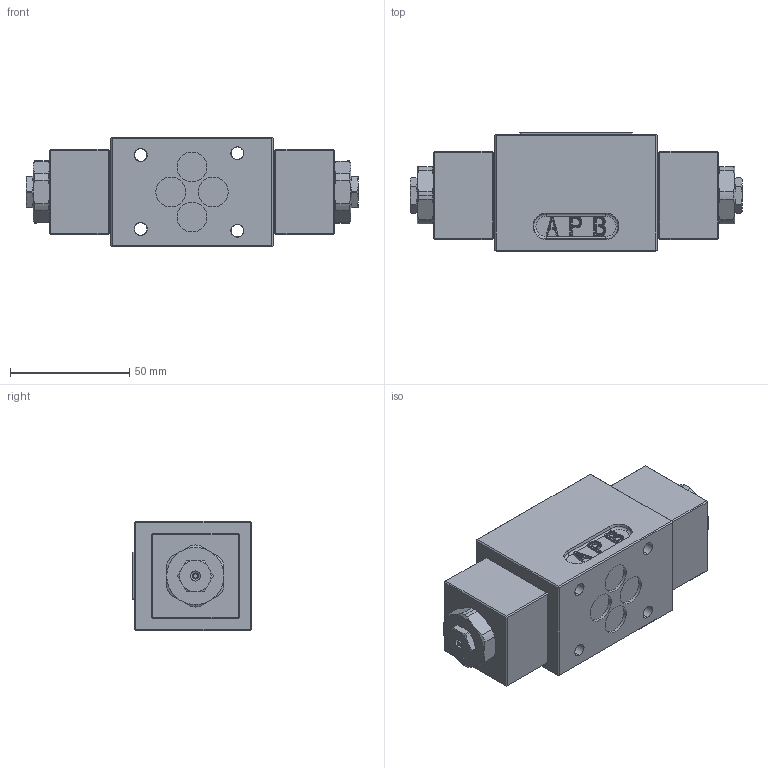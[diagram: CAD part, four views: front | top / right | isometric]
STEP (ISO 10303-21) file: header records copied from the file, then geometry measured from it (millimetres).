
FILE_DESCRIPTION (( 'STEP AP214' ), '1' );
FILE_NAME ('WFAFA06-...STEP', '2022-07-05T09:57:16', ( '' ), ( '' ), 'SwSTEP 2.0', 'SolidWorks 2020', '' );
FILE_SCHEMA (( 'AUTOMOTIVE_DESIGN' ));
Length unit declared in the file: millimetre
Products named in the file (1): WFAFA06-..
Bounding box: 139.2 x 49.8 x 46 mm (x, y, z)
Volume: 219852.1 mm3; surface area: 34677.4 mm2
Topology: 1 solids, 3 shells, 528 faces, 1247 edges, 753 vertices
Faces by surface type: plane 200, cylinder 176, cone 74, bspline 36, torus 24, sphere 18
Entity records: 22749 total; most frequent: CARTESIAN_POINT 4971, DIRECTION 2515, ORIENTED_EDGE 2460, EDGE_CURVE 1230, AXIS2_PLACEMENT_3D 960, VERTEX_POINT 753, VECTOR 595, LINE 595
